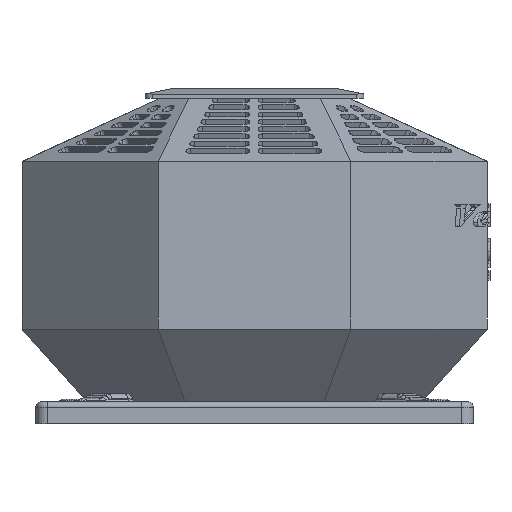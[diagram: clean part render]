
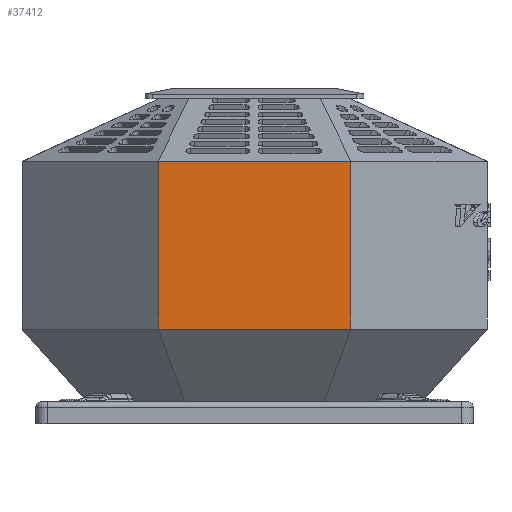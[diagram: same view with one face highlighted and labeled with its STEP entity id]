
A CAD part, left-side view. The second image highlights one B-rep face of the part: STEP entity #37412.
In plain terms, the highlighted planar face has unit normal (-1, 0, 0).
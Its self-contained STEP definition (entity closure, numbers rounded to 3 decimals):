
#4278=FACE_OUTER_BOUND('',#6431,.T.);
#6431=EDGE_LOOP('',(#33098,#33099,#33100,#33101));
#8580=LINE('',#58168,#11767);
#10617=LINE('',#70937,#13804);
#10619=LINE('',#70940,#13806);
#10629=LINE('',#70960,#13816);
#11767=VECTOR('',#41743,10.);
#13804=VECTOR('',#48302,10.);
#13806=VECTOR('',#48306,10.);
#13816=VECTOR('',#48334,10.);
#15062=VERTEX_POINT('',#58165);
#15063=VERTEX_POINT('',#58167);
#15134=VERTEX_POINT('',#58348);
#17277=VERTEX_POINT('',#70924);
#19147=EDGE_CURVE('',#15063,#15062,#8580,.T.);
#22547=EDGE_CURVE('',#17277,#15134,#10617,.T.);
#22549=EDGE_CURVE('',#15062,#15134,#10619,.T.);
#22559=EDGE_CURVE('',#17277,#15063,#10629,.T.);
#33098=ORIENTED_EDGE('',*,*,#22549,.T.);
#33099=ORIENTED_EDGE('',*,*,#22547,.F.);
#33100=ORIENTED_EDGE('',*,*,#22559,.T.);
#33101=ORIENTED_EDGE('',*,*,#19147,.T.);
#34067=PLANE('',#40005);
#37412=ADVANCED_FACE('',(#4278),#34067,.T.);
#40005=AXIS2_PLACEMENT_3D('',#70961,#48335,#48336);
#41743=DIRECTION('',(0.,0.,1.));
#48302=DIRECTION('',(0.,0.,1.));
#48306=DIRECTION('',(0.,1.,0.));
#48334=DIRECTION('',(0.,-1.,0.));
#48335=DIRECTION('center_axis',(-1.,0.,0.));
#48336=DIRECTION('ref_axis',(0.,-1.,0.));
#58165=CARTESIAN_POINT('',(144.069,240.705,287.5));
#58167=CARTESIAN_POINT('',(144.069,240.705,172.5));
#58168=CARTESIAN_POINT('',(144.069,240.705,122.5));
#58348=CARTESIAN_POINT('',(144.069,372.839,287.5));
#70924=CARTESIAN_POINT('',(144.069,372.839,172.5));
#70937=CARTESIAN_POINT('',(144.069,372.839,122.5));
#70940=CARTESIAN_POINT('',(144.069,260.055,287.5));
#70960=CARTESIAN_POINT('',(144.069,260.055,172.5));
#70961=CARTESIAN_POINT('Origin',(144.069,372.839,122.5));
